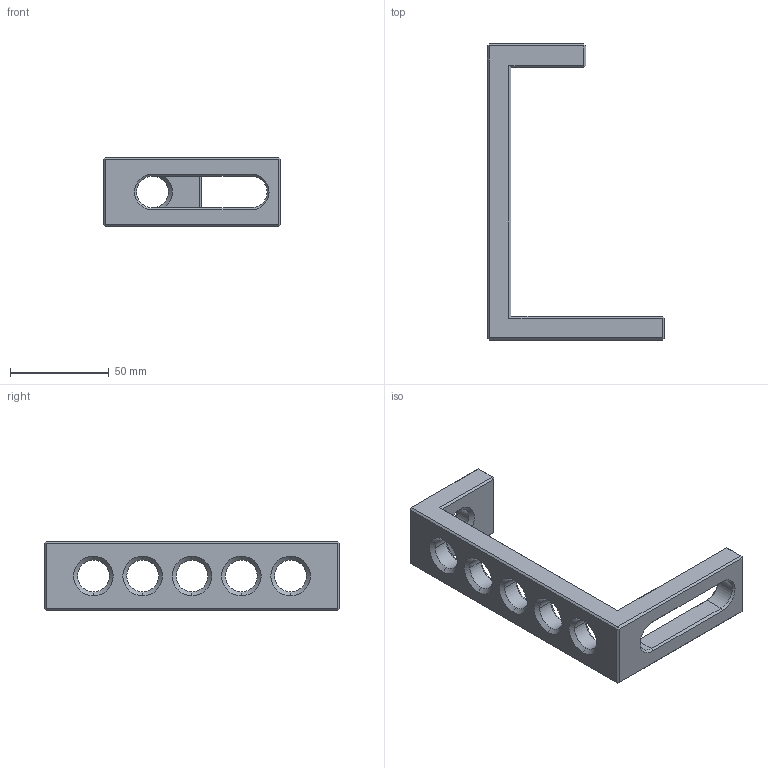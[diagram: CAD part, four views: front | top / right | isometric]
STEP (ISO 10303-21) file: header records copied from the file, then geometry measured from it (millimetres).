
FILE_DESCRIPTION (( 'STEP AP203' ), '1' );
FILE_NAME ('160114_150 LL.step', '2014-08-08T10:21:28', ( 'User' ), ( '' ), 'SwSTEP 2.0', 'SolidWorks 2014', '' );
FILE_SCHEMA (( 'CONFIG_CONTROL_DESIGN' ));
Length unit declared in the file: millimetre
Products named in the file (1): 160114_150 LL
Bounding box: 90 x 150 x 35 mm (x, y, z)
Volume: 82837.6 mm3; surface area: 25232.8 mm2
Topology: 1 solids, 1 shells, 93 faces, 221 edges, 130 vertices
Faces by surface type: plane 50, cone 28, cylinder 15
Entity records: 2742 total; most frequent: DIRECTION 487, CARTESIAN_POINT 445, ORIENTED_EDGE 442, EDGE_CURVE 221, AXIS2_PLACEMENT_3D 172, VECTOR 143, LINE 143, VERTEX_POINT 130
